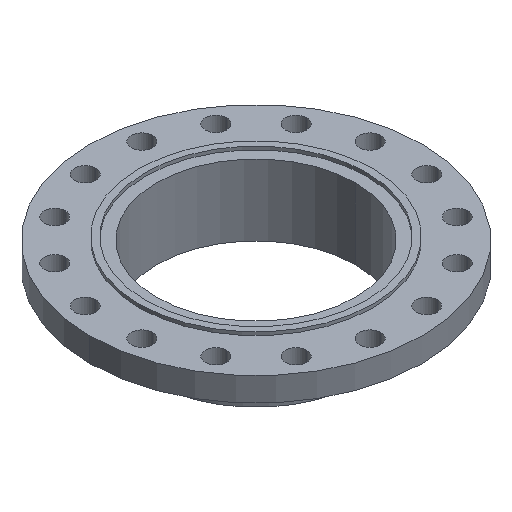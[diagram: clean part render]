
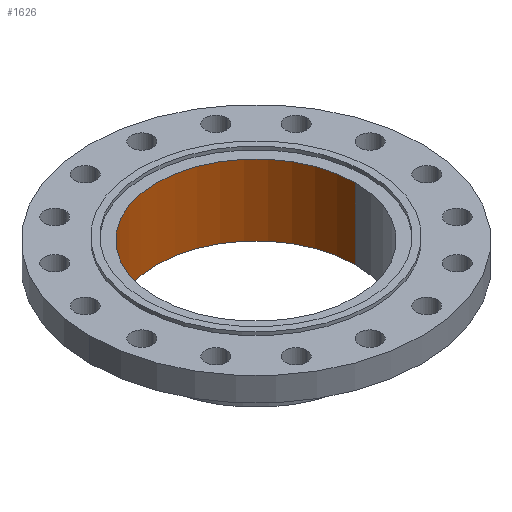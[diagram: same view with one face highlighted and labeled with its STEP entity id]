
A CAD part, isometric view. The second image highlights one B-rep face of the part: STEP entity #1626.
In plain terms, the highlighted cylindrical face has radius 153.95 mm (diameter 307.9 mm), a partial arc.
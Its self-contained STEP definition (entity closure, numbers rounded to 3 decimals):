
#194 = CIRCLE ( 'NONE', #195, 153.95 ) ;
#195 = AXIS2_PLACEMENT_3D ( 'NONE', #248, #245, #243 ) ;
#211 = CIRCLE ( 'NONE', #994, 153.95 ) ;
#216 = CARTESIAN_POINT ( 'NONE',  ( -153.95, 0., -5. ) ) ;
#222 = DIRECTION ( 'NONE',  ( 1., 0., 0. ) ) ;
#225 = DIRECTION ( 'NONE',  ( 0., 0., -1. ) ) ;
#226 = CARTESIAN_POINT ( 'NONE',  ( 0., 0., -5. ) ) ;
#243 = DIRECTION ( 'NONE',  ( -1., 0., 0. ) ) ;
#245 = DIRECTION ( 'NONE',  ( 0., 0., -1. ) ) ;
#248 = CARTESIAN_POINT ( 'NONE',  ( 0., 0., -115. ) ) ;
#299 = DIRECTION ( 'NONE',  ( 0., 0., -1. ) ) ;
#300 = CARTESIAN_POINT ( 'NONE',  ( 153.95, 0., -125. ) ) ;
#301 = LINE ( 'NONE', #300, #867 ) ;
#593 = EDGE_CURVE ( 'NONE', #1227, #1336, #301, .T. ) ;
#664 = EDGE_CURVE ( 'NONE', #1586, #1336, #194, .T. ) ;
#670 = EDGE_LOOP ( 'NONE', ( #1401, #1404, #1405, #1406 ) ) ;
#683 = EDGE_CURVE ( 'NONE', #688, #1227, #211, .T. ) ;
#688 = VERTEX_POINT ( 'NONE', #216 ) ;
#777 = DIRECTION ( 'NONE',  ( -1., 0., 0. ) ) ;
#790 = DIRECTION ( 'NONE',  ( 0., 0., -1. ) ) ;
#791 = CARTESIAN_POINT ( 'NONE',  ( 0., 0., -125. ) ) ;
#794 = CYLINDRICAL_SURFACE ( 'NONE', #1785, 153.95 ) ;
#807 = FACE_OUTER_BOUND ( 'NONE', #670, .T. ) ;
#867 = VECTOR ( 'NONE', #299, 1000. ) ;
#899 = VECTOR ( 'NONE', #1702, 1000. ) ;
#973 = CARTESIAN_POINT ( 'NONE',  ( -153.95, 0., -115. ) ) ;
#994 = AXIS2_PLACEMENT_3D ( 'NONE', #226, #225, #222 ) ;
#1167 = EDGE_CURVE ( 'NONE', #688, #1586, #1708, .T. ) ;
#1227 = VERTEX_POINT ( 'NONE', #1644 ) ;
#1336 = VERTEX_POINT ( 'NONE', #1616 ) ;
#1401 = ORIENTED_EDGE ( 'NONE', *, *, #593, .F. ) ;
#1404 = ORIENTED_EDGE ( 'NONE', *, *, #683, .F. ) ;
#1405 = ORIENTED_EDGE ( 'NONE', *, *, #1167, .T. ) ;
#1406 = ORIENTED_EDGE ( 'NONE', *, *, #664, .T. ) ;
#1586 = VERTEX_POINT ( 'NONE', #973 ) ;
#1616 = CARTESIAN_POINT ( 'NONE',  ( 153.95, 0., -115. ) ) ;
#1626 = ADVANCED_FACE ( 'NONE', ( #807 ), #794, .F. ) ;
#1644 = CARTESIAN_POINT ( 'NONE',  ( 153.95, 0., -5. ) ) ;
#1702 = DIRECTION ( 'NONE',  ( 0., 0., -1. ) ) ;
#1706 = CARTESIAN_POINT ( 'NONE',  ( -153.95, 0., -125. ) ) ;
#1708 = LINE ( 'NONE', #1706, #899 ) ;
#1785 = AXIS2_PLACEMENT_3D ( 'NONE', #791, #790, #777 ) ;
